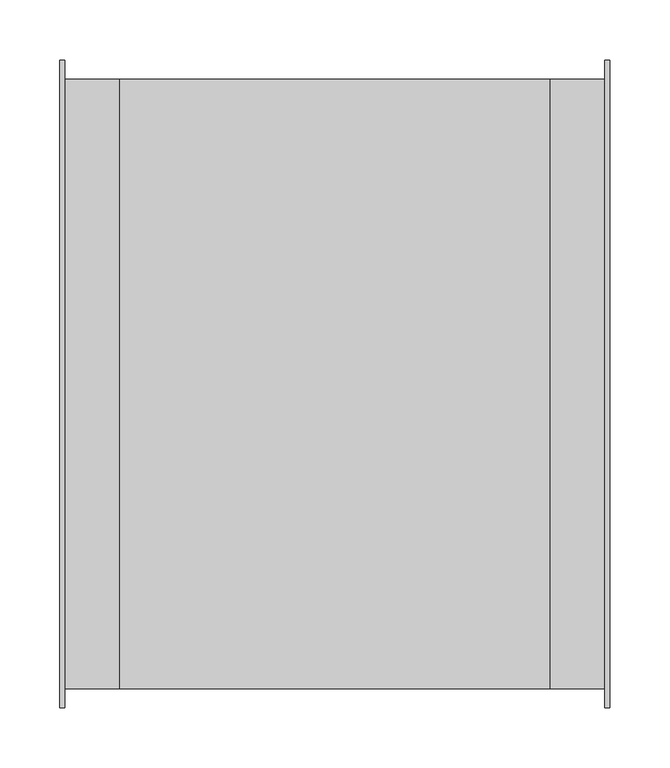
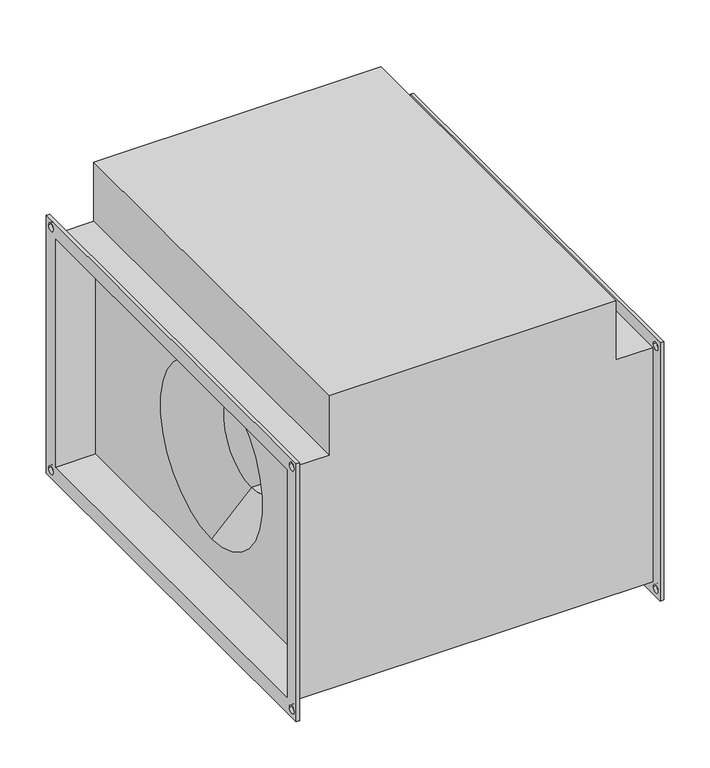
"""IFC4 building model written with IfcOpenShell, lengths in millimetres: proxy geometry, СВ_Вентилятор_КанальныйПрямоугольный_200-1000_SVPS : SVPS-500x300/22.2D."""

from ifc_helpers import new_model, si_unit, frame, origin, place, context, project, spatial, polyline, circle_curve, source, transform, mapped, element, save
from ifc_brep_helpers import plane_surface, revolved_surface, advanced_brep


def mechanical_equipment_4dfd0f60(model_context):
    return source(origin(), model_context, "Body", "AdvancedBrep", [
        advanced_brep(
        [(-225.0, -254.0, 154.0), (-179.0, -254.0, 154.0), (-179.0, 254.0, 154.0), (-225.0, 254.0, 154.0), (179.0, 254.0, 232.0), (179.0, -254.0, 232.0), (179.0, -254.0, 154.0), (179.0, 254.0, 154.0), (179.0, 250.0, -150.0), (179.0, 250.0, 150.0), (179.0, -250.0, 150.0), (179.0, -250.0, -150.0), (179.0, 0.0, 110.0), (179.0, 0.0, -110.0), (-179.0, 250.0, 150.0), (-179.0, 250.0, -150.0), (-179.0, -250.0, -150.0), (-179.0, -250.0, 150.0), (-179.0, 0.0, -110.0), (-179.0, 0.0, 110.0), (-179.0, -254.0, 232.0), (-179.0, 254.0, 232.0), (-225.0, -254.0, -154.0), (225.0, -254.0, -154.0), (225.0, -254.0, 154.0), (-225.0, 254.0, -154.0), (225.0, 254.0, -154.0), (225.0, 254.0, 154.0), (129.0, 0.0, -60.0), (129.0, 0.0, 60.0), (-129.0, 0.0, 60.0), (-129.0, 0.0, -60.0), (-229.0, -270.0, 170.0), (-229.0, 270.0, 170.0), (-229.0, 270.0, -170.0), (-229.0, -270.0, -170.0), (-229.0, -250.0, 150.0), (-229.0, -250.0, -150.0), (-229.0, 250.0, -150.0), (-229.0, 250.0, 150.0), (-229.0, 255.0, 160.0), (-229.0, 265.0, 160.0), (-229.0, -265.0, 160.0), (-229.0, -255.0, 160.0), (-229.0, -265.0, -160.0), (-229.0, -255.0, -160.0), (-229.0, 255.0, -160.0), (-229.0, 265.0, -160.0), (-225.0, -270.0, 170.0), (-225.0, -270.0, -170.0), (-225.0, 270.0, -170.0), (-225.0, 270.0, 170.0), (-225.0, 265.0, 160.0), (-225.0, 255.0, 160.0), (-225.0, -255.0, 160.0), (-225.0, -265.0, 160.0), (-225.0, -255.0, -160.0), (-225.0, -265.0, -160.0), (-225.0, 265.0, -160.0), (-225.0, 255.0, -160.0), (225.0, 270.0, 170.0), (225.0, 270.0, -170.0), (225.0, -270.0, -170.0), (225.0, -270.0, 170.0), (225.0, 255.0, 160.0), (225.0, 265.0, 160.0), (225.0, -265.0, 160.0), (225.0, -255.0, 160.0), (225.0, -265.0, -160.0), (225.0, -255.0, -160.0), (225.0, 255.0, -160.0), (225.0, 265.0, -160.0), (229.0, 270.0, 170.0), (229.0, -270.0, 170.0), (229.0, -270.0, -170.0), (229.0, 270.0, -170.0), (229.0, 250.0, 150.0), (229.0, 250.0, -150.0), (229.0, -250.0, -150.0), (229.0, -250.0, 150.0), (229.0, 265.0, 160.0), (229.0, 255.0, 160.0), (229.0, -255.0, 160.0), (229.0, -265.0, 160.0), (229.0, -255.0, -160.0), (229.0, -265.0, -160.0), (229.0, 265.0, -160.0), (229.0, 255.0, -160.0)],
        [
            (0, 1),
            (1, 2),
            (2, 3),
            (3, 0),
            (4, 5),
            (5, 6),
            (6, 7),
            (7, 4),
            (8, 9),
            (9, 10),
            (10, 11),
            (11, 8),
            (12, 13, circle_curve(frame((179.0, 0.0, 0.0), z_axis=(-1.0, 0.0, 0.0), x_axis=(0.0, 0.0, 1.0)), 110.0)),
            (13, 12, circle_curve(frame((179.0, 0.0, 0.0), z_axis=(-1.0, 0.0, 0.0), x_axis=(0.0, 0.0, 1.0)), 110.0)),
            (14, 15),
            (15, 16),
            (16, 17),
            (17, 14),
            (18, 19, circle_curve(frame((-179.0, 0.0, 0.0), z_axis=(1.0, 0.0, 0.0), x_axis=(0.0, 0.0, 1.0)), 110.0)),
            (19, 18, circle_curve(frame((-179.0, 0.0, 0.0), z_axis=(1.0, 0.0, 0.0), x_axis=(0.0, 0.0, 1.0)), 110.0)),
            (20, 21),
            (21, 2),
            (1, 20),
            (5, 20),
            (0, 22),
            (22, 23),
            (23, 24),
            (24, 6),
            (22, 25),
            (25, 26),
            (26, 23),
            (21, 4),
            (7, 27),
            (27, 26),
            (25, 3),
            (24, 27),
            (28, 13),
            (12, 29),
            (29, 28, circle_curve(frame((129.0, 0.0, 0.0), z_axis=(-1.0, 0.0, 0.0), x_axis=(0.0, 0.0, 1.0)), 60.0)),
            (28, 29, circle_curve(frame((129.0, 0.0, 0.0), z_axis=(-1.0, 0.0, 0.0), x_axis=(0.0, 0.0, 1.0)), 60.0)),
            (29, 30),
            (30, 31, circle_curve(frame((-129.0, 0.0, 0.0), z_axis=(-1.0, 0.0, 0.0), x_axis=(0.0, 0.0, 1.0)), 60.0)),
            (31, 28),
            (31, 30, circle_curve(frame((-129.0, 0.0, 0.0), z_axis=(-1.0, 0.0, 0.0), x_axis=(0.0, 0.0, 1.0)), 60.0)),
            (30, 19),
            (18, 31),
            (32, 33),
            (33, 34),
            (34, 35),
            (35, 32),
            (36, 37),
            (37, 38),
            (38, 39),
            (39, 36),
            (40, 41, circle_curve(frame((-229.0, 260.0, 160.0), z_axis=(1.0, 0.0, 0.0), x_axis=(0.0, 1.0, 0.0)), 5.0)),
            (41, 40, circle_curve(frame((-229.0, 260.0, 160.0), z_axis=(1.0, 0.0, 0.0), x_axis=(0.0, 1.0, 0.0)), 5.0)),
            (42, 43, circle_curve(frame((-229.0, -260.0, 160.0), z_axis=(1.0, 0.0, 0.0), x_axis=(0.0, 1.0, 0.0)), 5.0)),
            (43, 42, circle_curve(frame((-229.0, -260.0, 160.0), z_axis=(1.0, 0.0, 0.0), x_axis=(0.0, 1.0, 0.0)), 5.0)),
            (44, 45, circle_curve(frame((-229.0, -260.0, -160.0), z_axis=(1.0, 0.0, 0.0), x_axis=(0.0, 1.0, 0.0)), 5.0)),
            (45, 44, circle_curve(frame((-229.0, -260.0, -160.0), z_axis=(1.0, 0.0, 0.0), x_axis=(0.0, 1.0, 0.0)), 5.0)),
            (46, 47, circle_curve(frame((-229.0, 260.0, -160.0), z_axis=(1.0, 0.0, 0.0), x_axis=(0.0, 1.0, 0.0)), 5.0)),
            (47, 46, circle_curve(frame((-229.0, 260.0, -160.0), z_axis=(1.0, 0.0, 0.0), x_axis=(0.0, 1.0, 0.0)), 5.0)),
            (48, 49),
            (49, 50),
            (50, 51),
            (51, 48),
            (52, 53, circle_curve(frame((-225.0, 260.0, 160.0), z_axis=(-1.0, 0.0, 0.0), x_axis=(0.0, 1.0, 0.0)), 5.0)),
            (53, 52, circle_curve(frame((-225.0, 260.0, 160.0), z_axis=(-1.0, 0.0, 0.0), x_axis=(0.0, 1.0, 0.0)), 5.0)),
            (54, 55, circle_curve(frame((-225.0, -260.0, 160.0), z_axis=(-1.0, 0.0, 0.0), x_axis=(0.0, 1.0, 0.0)), 5.0)),
            (55, 54, circle_curve(frame((-225.0, -260.0, 160.0), z_axis=(-1.0, 0.0, 0.0), x_axis=(0.0, 1.0, 0.0)), 5.0)),
            (56, 57, circle_curve(frame((-225.0, -260.0, -160.0), z_axis=(-1.0, 0.0, 0.0), x_axis=(0.0, 1.0, 0.0)), 5.0)),
            (57, 56, circle_curve(frame((-225.0, -260.0, -160.0), z_axis=(-1.0, 0.0, 0.0), x_axis=(0.0, 1.0, 0.0)), 5.0)),
            (58, 59, circle_curve(frame((-225.0, 260.0, -160.0), z_axis=(-1.0, 0.0, 0.0), x_axis=(0.0, 1.0, 0.0)), 5.0)),
            (59, 58, circle_curve(frame((-225.0, 260.0, -160.0), z_axis=(-1.0, 0.0, 0.0), x_axis=(0.0, 1.0, 0.0)), 5.0)),
            (35, 49),
            (48, 32),
            (34, 50),
            (33, 51),
            (60, 61),
            (61, 62),
            (62, 63),
            (63, 60),
            (64, 65, circle_curve(frame((225.0, 260.0, 160.0), z_axis=(1.0, 0.0, 0.0), x_axis=(0.0, 1.0, 0.0)), 5.0)),
            (65, 64, circle_curve(frame((225.0, 260.0, 160.0), z_axis=(1.0, 0.0, 0.0), x_axis=(0.0, 1.0, 0.0)), 5.0)),
            (66, 67, circle_curve(frame((225.0, -260.0, 160.0), z_axis=(1.0, 0.0, 0.0), x_axis=(0.0, 1.0, 0.0)), 5.0)),
            (67, 66, circle_curve(frame((225.0, -260.0, 160.0), z_axis=(1.0, 0.0, 0.0), x_axis=(0.0, 1.0, 0.0)), 5.0)),
            (68, 69, circle_curve(frame((225.0, -260.0, -160.0), z_axis=(1.0, 0.0, 0.0), x_axis=(0.0, 1.0, 0.0)), 5.0)),
            (69, 68, circle_curve(frame((225.0, -260.0, -160.0), z_axis=(1.0, 0.0, 0.0), x_axis=(0.0, 1.0, 0.0)), 5.0)),
            (70, 71, circle_curve(frame((225.0, 260.0, -160.0), z_axis=(1.0, 0.0, 0.0), x_axis=(0.0, 1.0, 0.0)), 5.0)),
            (71, 70, circle_curve(frame((225.0, 260.0, -160.0), z_axis=(1.0, 0.0, 0.0), x_axis=(0.0, 1.0, 0.0)), 5.0)),
            (72, 73),
            (73, 74),
            (74, 75),
            (75, 72),
            (76, 77),
            (77, 78),
            (78, 79),
            (79, 76),
            (80, 81, circle_curve(frame((229.0, 260.0, 160.0), z_axis=(-1.0, 0.0, 0.0), x_axis=(0.0, 1.0, 0.0)), 5.0)),
            (81, 80, circle_curve(frame((229.0, 260.0, 160.0), z_axis=(-1.0, 0.0, 0.0), x_axis=(0.0, 1.0, 0.0)), 5.0)),
            (82, 83, circle_curve(frame((229.0, -260.0, 160.0), z_axis=(-1.0, 0.0, 0.0), x_axis=(0.0, 1.0, 0.0)), 5.0)),
            (83, 82, circle_curve(frame((229.0, -260.0, 160.0), z_axis=(-1.0, 0.0, 0.0), x_axis=(0.0, 1.0, 0.0)), 5.0)),
            (84, 85, circle_curve(frame((229.0, -260.0, -160.0), z_axis=(-1.0, 0.0, 0.0), x_axis=(0.0, 1.0, 0.0)), 5.0)),
            (85, 84, circle_curve(frame((229.0, -260.0, -160.0), z_axis=(-1.0, 0.0, 0.0), x_axis=(0.0, 1.0, 0.0)), 5.0)),
            (86, 87, circle_curve(frame((229.0, 260.0, -160.0), z_axis=(-1.0, 0.0, 0.0), x_axis=(0.0, 1.0, 0.0)), 5.0)),
            (87, 86, circle_curve(frame((229.0, 260.0, -160.0), z_axis=(-1.0, 0.0, 0.0), x_axis=(0.0, 1.0, 0.0)), 5.0)),
            (63, 73),
            (72, 60),
            (62, 74),
            (61, 75),
            (39, 14),
            (17, 36),
            (38, 15),
            (37, 16),
            (76, 9),
            (8, 77),
            (11, 78),
            (10, 79),
            (40, 53),
            (52, 41),
            (64, 81),
            (80, 65),
            (42, 55),
            (54, 43),
            (66, 83),
            (82, 67),
            (44, 57),
            (56, 45),
            (68, 85),
            (84, 69),
            (46, 59),
            (58, 47),
            (70, 87),
            (86, 71),
        ],
        [
            plane_surface(frame((-179.0, 254.0, 154.0), z_axis=(0.0, 0.0, 1.0), x_axis=(-1.0, 0.0, 0.0))),
            plane_surface(frame((179.0, -254.0, 232.0), z_axis=(1.0, 0.0, 0.0), x_axis=(0.0, 0.0, -1.0))),
            plane_surface(frame((-179.0, -254.0, 232.0), z_axis=(-1.0, 0.0, 0.0), x_axis=(0.0, 0.0, 1.0))),
            plane_surface(frame((179.0, -254.0, 232.0), z_axis=(0.0, -1.0, 0.0), x_axis=(-1.0, 0.0, 0.0))),
            plane_surface(frame((179.0, -254.0, -154.0), z_axis=(0.0, 0.0, -1.0), x_axis=(-1.0, 0.0, 0.0))),
            plane_surface(frame((179.0, 254.0, -154.0), z_axis=(0.0, 1.0, 0.0), x_axis=(-1.0, 0.0, 0.0))),
            plane_surface(frame((179.0, 254.0, 232.0), z_axis=(0.0, 0.0, 1.0), x_axis=(-1.0, 0.0, 0.0))),
            plane_surface(frame((225.0, 254.0, 154.0), z_axis=(0.0, 0.0, 1.0), x_axis=(-1.0, 0.0, 0.0))),
            revolved_surface(polyline([(129.0, 0.0, 60.0), (179.0, 0.0, 110.0)]), (-616.0617897, 0.0, 0.0), (-1.0, 0.0, 0.0)),
            revolved_surface(polyline([(-129.0, 0.0, 60.0), (129.0, 0.0, 60.0)]), (-616.0617897, 0.0, 0.0), (-1.0, 0.0, 0.0)),
            revolved_surface(polyline([(-179.0, 0.0, 110.0), (-129.0, 0.0, 60.0)]), (-616.0617897, 0.0, 0.0), (-1.0, 0.0, 0.0)),
            plane_surface(frame((-229.0, -270.0, 170.0), z_axis=(-1.0, 0.0, 0.0), x_axis=(0.0, 0.0, 1.0))),
            plane_surface(frame((-225.0, -270.0, 170.0), z_axis=(1.0, 0.0, 0.0), x_axis=(0.0, 0.0, -1.0))),
            plane_surface(frame((-225.0, -270.0, 170.0), z_axis=(0.0, -1.0, 0.0), x_axis=(-1.0, 0.0, 0.0))),
            plane_surface(frame((-225.0, -270.0, -170.0), z_axis=(0.0, 0.0, -1.0), x_axis=(-1.0, 0.0, 0.0))),
            plane_surface(frame((-225.0, 270.0, -170.0), z_axis=(0.0, 1.0, 0.0), x_axis=(-1.0, 0.0, 0.0))),
            plane_surface(frame((-225.0, 270.0, 170.0), z_axis=(0.0, 0.0, 1.0), x_axis=(-1.0, 0.0, 0.0))),
            plane_surface(frame((225.0, 250.0, -150.0), z_axis=(-1.0, 0.0, 0.0), x_axis=(0.0, 0.0, 1.0))),
            plane_surface(frame((229.0, 250.0, -150.0), z_axis=(1.0, 0.0, 0.0), x_axis=(0.0, 0.0, -1.0))),
            plane_surface(frame((229.0, 270.0, 170.0), z_axis=(0.0, 0.0, 1.0), x_axis=(-1.0, 0.0, 0.0))),
            plane_surface(frame((229.0, -270.0, 170.0), z_axis=(0.0, -1.0, 0.0), x_axis=(-1.0, 0.0, 0.0))),
            plane_surface(frame((229.0, -270.0, -170.0), z_axis=(0.0, 0.0, -1.0), x_axis=(-1.0, 0.0, 0.0))),
            plane_surface(frame((229.0, 270.0, -170.0), z_axis=(0.0, 1.0, 0.0), x_axis=(-1.0, 0.0, 0.0))),
            plane_surface(frame((-225.0, -250.0, 150.0), z_axis=(0.0, 0.0, -1.0), x_axis=(-1.0, 0.0, 0.0))),
            plane_surface(frame((-225.0, 250.0, 150.0), z_axis=(0.0, -1.0, 0.0), x_axis=(-1.0, 0.0, 0.0))),
            plane_surface(frame((-225.0, 250.0, -150.0), z_axis=(0.0, 0.0, 1.0), x_axis=(-1.0, 0.0, 0.0))),
            plane_surface(frame((-225.0, -250.0, -150.0), z_axis=(0.0, 1.0, 0.0), x_axis=(-1.0, 0.0, 0.0))),
            plane_surface(frame((229.0, 250.0, 150.0), z_axis=(0.0, -1.0, 0.0), x_axis=(-1.0, 0.0, 0.0))),
            plane_surface(frame((229.0, 250.0, -150.0), z_axis=(0.0, 0.0, 1.0), x_axis=(-1.0, 0.0, 0.0))),
            plane_surface(frame((229.0, -250.0, -150.0), z_axis=(0.0, 1.0, 0.0), x_axis=(-1.0, 0.0, 0.0))),
            plane_surface(frame((229.0, -250.0, 150.0), z_axis=(0.0, 0.0, -1.0), x_axis=(-1.0, 0.0, 0.0))),
            revolved_surface(polyline([(-225.0, 265.0, 160.0), (-229.0, 265.0, 160.0)]), (-229.0, 260.0, 160.0), (1.0, 0.0, 0.0)),
            revolved_surface(polyline([(229.0, 265.0, 160.0), (225.0, 265.0, 160.0)]), (-229.0, 260.0, 160.0), (1.0, 0.0, 0.0)),
            revolved_surface(polyline([(-225.0, -255.0, 160.0), (-229.0, -255.0, 160.0)]), (0.0, -260.0, 160.0), (1.0, 0.0, 0.0)),
            revolved_surface(polyline([(229.0, -255.0, 160.0), (225.0, -255.0, 160.0)]), (0.0, -260.0, 160.0), (1.0, 0.0, 0.0)),
            revolved_surface(polyline([(-225.0, -255.0, -160.0), (-229.0, -255.0, -160.0)]), (0.0, -260.0, -160.0), (1.0, 0.0, 0.0)),
            revolved_surface(polyline([(229.0, -255.0, -160.0), (225.0, -255.0, -160.0)]), (0.0, -260.0, -160.0), (1.0, 0.0, 0.0)),
            revolved_surface(polyline([(-225.0, 265.0, -160.0), (-229.0, 265.0, -160.0)]), (0.0, 260.0, -160.0), (1.0, 0.0, 0.0)),
            revolved_surface(polyline([(229.0, 265.0, -160.0), (225.0, 265.0, -160.0)]), (0.0, 260.0, -160.0), (1.0, 0.0, 0.0)),
        ],
        [
            (0, [[1, 2, 3, 4]]),
            (1, [[5, 6, 7, 8]]),
            (1, [[9, 10, 11, 12], [13, 14]]),
            (2, [[15, 16, 17, 18], [19, 20]]),
            (2, [[21, 22, -2, 23]]),
            (3, [[24, -23, -1, 25, 26, 27, 28, -6]]),
            (4, [[-26, 29, 30, 31]]),
            (5, [[32, -8, 33, 34, -30, 35, -3, -22]]),
            (6, [[-5, -32, -21, -24]]),
            (7, [[-28, 36, -33, -7]]),
            (8, [[37, -13, 38, 39]]),
            (8, [[-37, 40, -38, -14]]),
            (9, [[-39, 41, 42, 43]]),
            (9, [[-40, -43, 44, -41]]),
            (10, [[-42, 45, -19, 46]]),
            (10, [[-44, -46, -20, -45]]),
            (11, [[47, 48, 49, 50], [51, 52, 53, 54], [55, 56], [57, 58], [59, 60], [61, 62]]),
            (12, [[63, 64, 65, 66], [-25, -4, -35, -29], [67, 68], [69, 70], [71, 72], [73, 74]]),
            (13, [[-50, 75, -63, 76]]),
            (14, [[-49, 77, -64, -75]]),
            (15, [[-48, 78, -65, -77]]),
            (16, [[-47, -76, -66, -78]]),
            (17, [[79, 80, 81, 82], [-27, -31, -34, -36], [83, 84], [85, 86], [87, 88], [89, 90]]),
            (18, [[91, 92, 93, 94], [95, 96, 97, 98], [99, 100], [101, 102], [103, 104], [105, 106]]),
            (19, [[-82, 107, -91, 108]]),
            (20, [[-81, 109, -92, -107]]),
            (21, [[-80, 110, -93, -109]]),
            (22, [[-79, -108, -94, -110]]),
            (23, [[-54, 111, -18, 112]]),
            (24, [[-53, 113, -15, -111]]),
            (25, [[-52, 114, -16, -113]]),
            (26, [[-51, -112, -17, -114]]),
            (27, [[-95, 115, -9, 116]]),
            (28, [[-96, -116, -12, 117]]),
            (29, [[-97, -117, -11, 118]]),
            (30, [[-115, -98, -118, -10]]),
            (31, [[119, -67, 120, -55]]),
            (32, [[121, -99, 122, -83]]),
            (31, [[-119, -56, -120, -68]]),
            (32, [[-121, -84, -122, -100]]),
            (33, [[123, -69, 124, -57]]),
            (34, [[125, -101, 126, -85]]),
            (33, [[-123, -58, -124, -70]]),
            (34, [[-125, -86, -126, -102]]),
            (35, [[127, -71, 128, -59]]),
            (36, [[129, -103, 130, -87]]),
            (35, [[-127, -60, -128, -72]]),
            (36, [[-129, -88, -130, -104]]),
            (37, [[131, -73, 132, -61]]),
            (38, [[133, -105, 134, -89]]),
            (37, [[-131, -62, -132, -74]]),
            (38, [[-133, -90, -134, -106]]),
        ],
    ),
    ])


if __name__ == "__main__":
    model = new_model("IFC4")
    model_context = context("Model", 3, world=origin())
    ifc_project = project(units=[si_unit("LENGTHUNIT", "METRE", prefix="MILLI")], contexts=[model_context])
    site = spatial("IfcSite", under=ifc_project)
    building = spatial("IfcBuilding", under=site)
    placement = place(None, origin())
    mechanical_equipment_shape = mechanical_equipment_4dfd0f60(model_context)
    element("IfcBuildingElementProxy", 1, Name="СВ_Вентилятор_КанальныйПрямоугольный_200-1000_SVPS : SVPS-500x300/22.2D", ObjectType="СВ_Вентилятор_КанальныйПрямоугольный_200-1000_SVPS : SVPS-500x300/22.2D", at=placement, inside=building, context=model_context, shape_type="MappedRepresentation", body=[
        mapped(mechanical_equipment_shape, transform((0.0, 0.0, 0.0), x_axis=(1.0, 0.0, 0.0), y_axis=(0.0, 1.0, 0.0), z_axis=(0.0, 0.0, 1.0))),
    ])
    save(model, "model.ifc")
